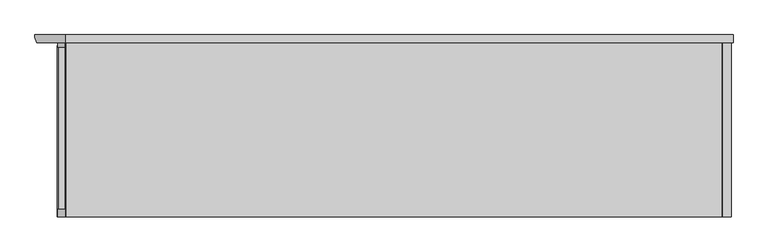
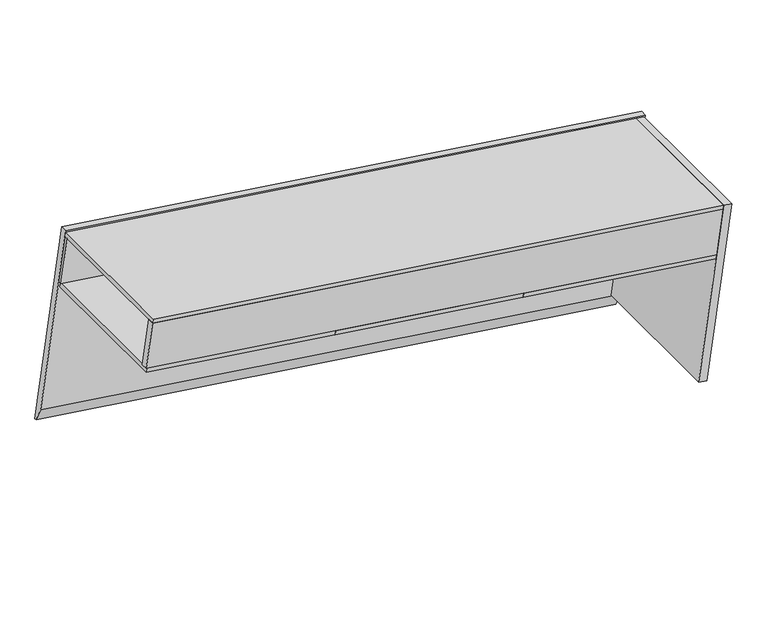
"""IFC4 building model written with IfcOpenShell, lengths in millimetres: proxy geometry, VIEWLINE^TABLE 3_RIGHT TOP SECTION-ASSEMBLY."""

from ifc_helpers import new_model, si_unit, frame, origin, place, context, project, spatial, polyline, outline, extrude, source, transform, mapped, element, save


def generic_models_daf2a984(model_context):
    return source(origin(), model_context, "Body", "SweptSolid", [
        extrude(outline(polyline([(443.70625, -349.25), (-443.70625, -349.25), (-443.70625, 349.25), (443.70625, 349.25), (443.70625, -349.25)])), frame((2358.7000333, -361.95, -1801.81641), z_axis=(0.13797415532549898, 0.0, 0.9904358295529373), x_axis=(-0.9904358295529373, 0.0, 0.13797415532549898)), (0.0, 0.0, 1.0), 19.05),
        extrude(outline(polyline([(0.0, -425.45), (0.0, 0.0), (203.2, 0.0), (203.2, -63.5), (103.3342102, -63.5), (6.35, -425.45), (0.0, -425.45)])), frame((1983.1426158, 0.0, -1666.1516718), z_axis=(-0.9904358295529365, 0.0, 0.1379741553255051), x_axis=(0.0, -1.0000000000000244, 0.0)), (0.0, 0.0, 1.0), 57.15),
        extrude(outline(polyline([(0.0, 0.0), (2698.75, 0.0), (2698.75, -31.75), (0.0, -31.75), (0.0, 0.0)])), frame((3706.4455313, -711.2, -1970.3321701), z_axis=(0.13797415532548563, 0.0, 0.9904358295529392), x_axis=(-0.9904358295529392, 0.0, 0.13797415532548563)), (0.0, 0.0, 1.0), 215.9),
        extrude(outline(polyline([(446.88125, -349.25), (-446.88125, -349.25), (-446.88125, 349.25), (446.88125, 349.25), (446.88125, -349.25)])), frame((1475.0579471, -361.95, -1678.7193179), z_axis=(0.13797415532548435, 0.0, 0.9904358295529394), x_axis=(-0.9904358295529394, 0.0, 0.13797415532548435)), (0.0, 0.0, 1.0), 19.05),
        extrude(outline(polyline([(0.0, 0.0), (2698.75, 0.0), (2698.75, -711.2), (0.0, -711.2), (0.0, 0.0)])), frame((1063.2954565, 0.0, -1384.1393228), z_axis=(0.13797415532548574, 0.0, 0.9904358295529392), x_axis=(0.9904358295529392, 0.0, -0.13797415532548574)), (0.0, 0.0, 1.0), 19.05),
        extrude(outline(polyline([(-455.6125, -349.25), (-455.6125, 349.25), (455.6125, 349.25), (455.6125, -349.25), (-455.6125, -349.25)])), frame((3250.9898624, -361.95, -1926.1181888), z_axis=(0.13797415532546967, 0.0, 0.9904358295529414), x_axis=(-0.9904358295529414, 0.0, 0.13797415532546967)), (0.0, 0.0, 1.0), 19.05),
        extrude(outline(polyline([(12.7, -196.85), (0.0, -196.85), (0.0, 0.0), (12.7, 0.0), (12.7, -196.85)])), frame((3107.8098837, 31.75, -1837.8631167), z_axis=(0.1379741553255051, 0.0, 0.9904358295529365), x_axis=(0.0, -1.0000000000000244, 0.0)), (0.0, 0.0, 1.0), 133.35),
        extrude(outline(polyline([(12.7, -196.8500001), (0.0, -196.8500001), (0.0, 0.0), (12.7, 0.0), (12.7, -196.8500001)])), frame((1840.5224789, 31.75, -1661.3217356), z_axis=(0.1379741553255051, 0.0, 0.9904358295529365), x_axis=(0.0, -1.0000000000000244, 0.0)), (0.0, 0.0, 1.0), 133.35),
        extrude(outline(polyline([(0.0, -425.45), (0.0, 0.0), (203.2, 0.0), (203.2, -63.5), (103.3342102, -63.5), (6.35, -425.45), (0.0, -425.45)])), frame((2863.6400683, 0.0, -1788.8106959), z_axis=(-0.9904358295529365, 0.0, 0.1379741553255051), x_axis=(0.0, -1.0000000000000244, 0.0)), (0.0, 0.0, 1.0), 57.15),
        extrude(outline(polyline([(0.0, 0.0), (38.1, 0.0), (38.1, -711.2), (0.0, -711.2), (0.0, 0.0)])), frame((3622.3364862, 0.0, -2574.1018518), z_axis=(0.13797415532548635, 0.0, 0.9904358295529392), x_axis=(0.9904358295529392, 0.0, -0.13797415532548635)), (0.0, 0.0, 1.0), 844.55),
        extrude(outline(polyline([(853.3373144, 0.0), (914.4000001, -22.225), (914.4000001, -31.75), (0.0, -31.75), (0.0, 0.0), (853.3373144, 0.0)])), frame((3783.7635676, 0.0, -1737.4729556), z_axis=(-0.9904358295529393, 0.0, 0.1379741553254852), x_axis=(-0.1379741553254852, 0.0, -0.9904358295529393)), (0.0, 0.0, 1.0), 2743.2),
        extrude(outline(polyline([(0.0, 0.0), (2698.75, 0.0), (2698.75, -19.05), (0.0, -19.05), (0.0, 0.0)])), frame((1033.5068363, 0.0, -1597.9744184), z_axis=(0.13797415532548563, 0.0, 0.9904358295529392), x_axis=(0.9904358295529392, 0.0, -0.13797415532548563)), (0.0, 0.0, 1.0), 215.9),
    ])


if __name__ == "__main__":
    model = new_model("IFC4")
    model_context = context("Model", 3, world=origin())
    ifc_project = project(units=[si_unit("LENGTHUNIT", "METRE", prefix="MILLI")], contexts=[model_context])
    site = spatial("IfcSite", under=ifc_project)
    building = spatial("IfcBuilding", under=site)
    placement = place(None, origin())
    generic_models_shape = generic_models_daf2a984(model_context)
    element("IfcBuildingElementProxy", 1, Name="VIEWLINE^TABLE 3_RIGHT TOP SECTION-ASSEMBLY", ObjectType="VIEWLINE^TABLE 3_RIGHT TOP SECTION-ASSEMBLY", at=placement, inside=building, context=model_context, shape_type="MappedRepresentation", body=[
        mapped(generic_models_shape, transform((0.0, 0.0, 0.0), x_axis=(1.0, 0.0, 0.0), y_axis=(0.0, 1.0, 0.0), z_axis=(0.0, 0.0, 1.0))),
    ])
    save(model, "model.ifc")
